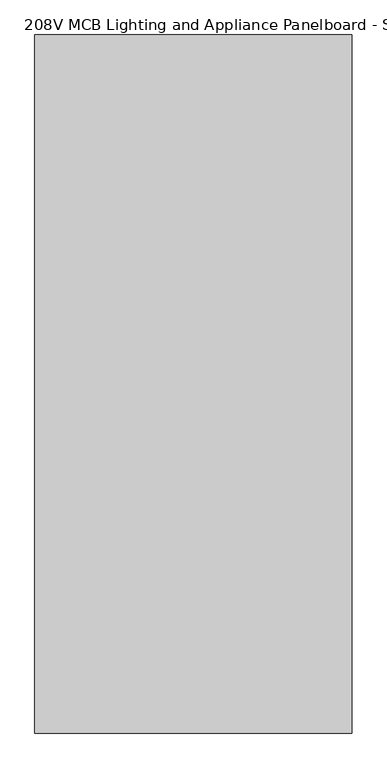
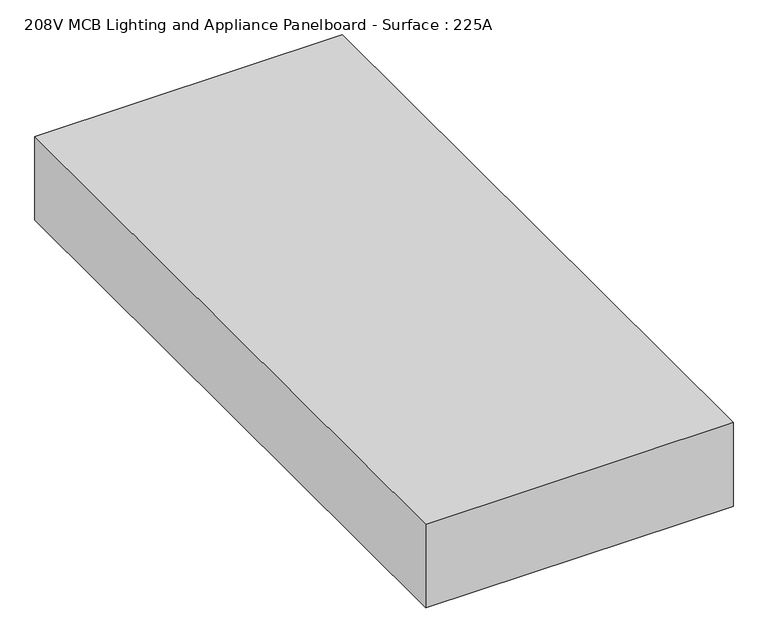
"""IFC4 building model written with IfcOpenShell, lengths in millimetres: proxy geometry, 208V MCB Lighting and Appliance Panelboard - Surface : 225A."""

from ifc_helpers import new_model, si_unit, origin, origin_with_axes, place, context, project, spatial, polyline, outline, extrude, source, transform, mapped, element, save


def proxy_208v_mcb_lighting_and_appliance_panelboard_surface_b4f8874f(model_context):
    return source(origin(), model_context, "Body", "SweptSolid", [
        extrude(outline(polyline([(349.2594706, 322.6943297), (349.2594706, -794.9056703), (-158.7405294, -794.9056703), (-158.7405294, 322.6943297), (349.2594706, 322.6943297)])), origin_with_axes(), (0.0, 0.0, 1.0), 146.05),
    ])


if __name__ == "__main__":
    model = new_model("IFC4")
    model_context = context("Model", 3, world=origin())
    ifc_project = project(units=[si_unit("LENGTHUNIT", "METRE", prefix="MILLI")], contexts=[model_context])
    site = spatial("IfcSite", under=ifc_project)
    building = spatial("IfcBuilding", under=site)
    placement = place(None, origin())
    proxy_208v_mcb_lighting_and_appliance_panelboard_surface_shape = proxy_208v_mcb_lighting_and_appliance_panelboard_surface_b4f8874f(model_context)
    element("IfcBuildingElementProxy", 1, Name="208V MCB Lighting and Appliance Panelboard - Surface : 225A", ObjectType="208V MCB Lighting and Appliance Panelboard - Surface : 225A", at=placement, inside=building, context=model_context, shape_type="MappedRepresentation", body=[
        mapped(proxy_208v_mcb_lighting_and_appliance_panelboard_surface_shape, transform((0.0, 0.0, 0.0), x_axis=(1.0, 0.0, 0.0), y_axis=(0.0, 1.0, 0.0), z_axis=(0.0, 0.0, 1.0))),
    ])
    save(model, "model.ifc")
